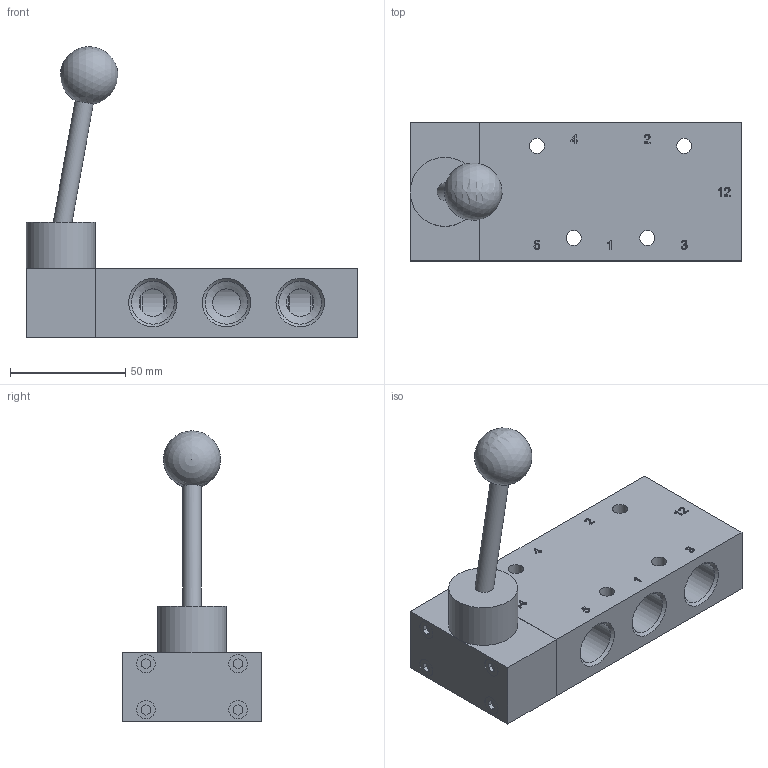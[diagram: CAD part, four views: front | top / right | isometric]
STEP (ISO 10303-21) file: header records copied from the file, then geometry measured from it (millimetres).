
FILE_DESCRIPTION(/* description */ ('Unknown','CAx-IF Rec.Pracs.---Representation and Presentation of Product Manufacturing Information (PMI)---4.0---2014-10-13','CAx-IF Rec.Pracs.---3D Tessellated Geometry---0.4---2014-09-14','2;1'),/* implementation_level */ '2;1');
FILE_NAME(/* name */ 'HV 511 121',/* time_stamp */ '2020-07-03T13:56:13+02:00',/* author */ ('Unknown'),/* organization */ ('Unknown'),/* preprocessor_version */ 'ST-DEVELOPER v16.7',/* originating_system */ 'DEX',/* authorisation */ $);
FILE_SCHEMA (('AP242_MANAGED_MODEL_BASED_3D_ENGINEERING_MIM_LF { 1 0 10303 442 20130219 1 4 }'));
Length unit declared in the file: millimetre
Products named in the file (2): HV 511 121
Assembly tree (1 placements, depth 2):
  HV 511 121
    HV 511 121
Bounding box: 144 x 60 x 126.18 mm (x, y, z)
Volume: 204366.3 mm3; surface area: 55903.5 mm2
Topology: 3 solids, 3 shells, 365 faces, 963 edges, 634 vertices
Faces by surface type: plane 196, bspline 72, cylinder 62, cone 32, torus 2, sphere 1
Full cylindrical faces by diameter (mm): 1.6 x1, 4.134 x8, 6.6 x4, 8 x5, 12 x5, 16.5 x1, 17 x1, 18.631 x10, 20.1 x1, 22 x6, 22.1 x1, 30 x1
Entity records: 14061 total; most frequent: CARTESIAN_POINT 3455, ORIENTED_EDGE 1710, DIRECTION 1390, EDGE_CURVE 855, VERTEX_POINT 601, LINE 544, VECTOR 544, FACE_BOUND 492
